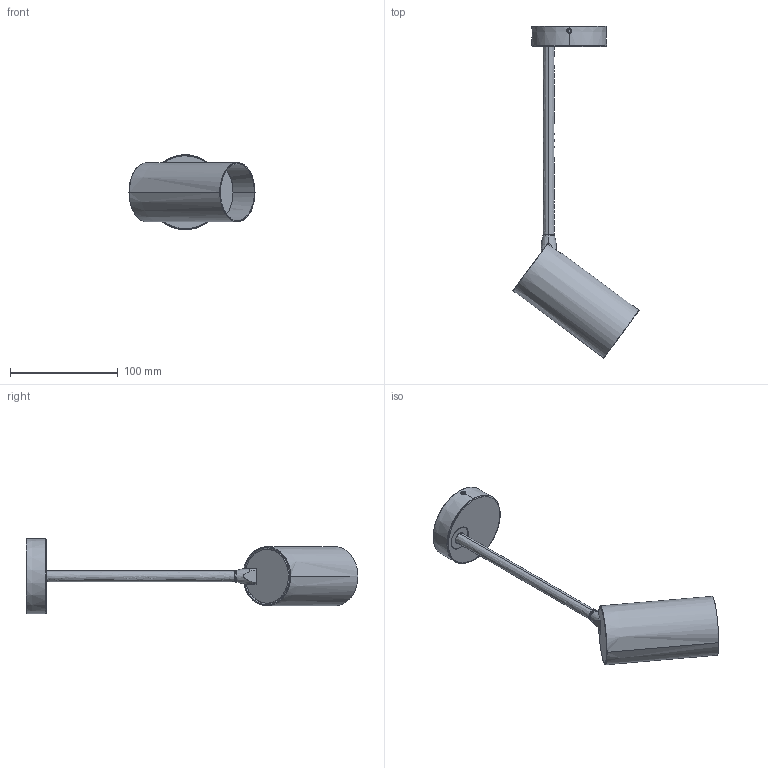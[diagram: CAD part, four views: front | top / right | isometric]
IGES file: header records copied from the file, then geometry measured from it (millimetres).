
Start section: SolidWorks IGES file using analytic representation for surfaces
Global section: file name: Z:\Modele 3D_WWW\_KOLEKCJE_WWW\MONO\MONO-BELKA-LONG\MONO-LONG-I-S-BRASS-7731\MONO-LONG-I-S-BRASS-7731.IGS; native system: SolidWorks 2021; preprocessor: SolidWorks 2021; author: gabriela.tworek; date: 210726.135131; units: millimetre
Bounding box: 117.09 x 308.37 x 70.05 mm (x, y, z)
Surface area: 77293.4 mm2 (no closed solid volume)
Topology: 0 solids, 0 shells, 257 faces, 5036 edges, 5034 vertices
Faces by surface type: revolution 175, bspline 82
